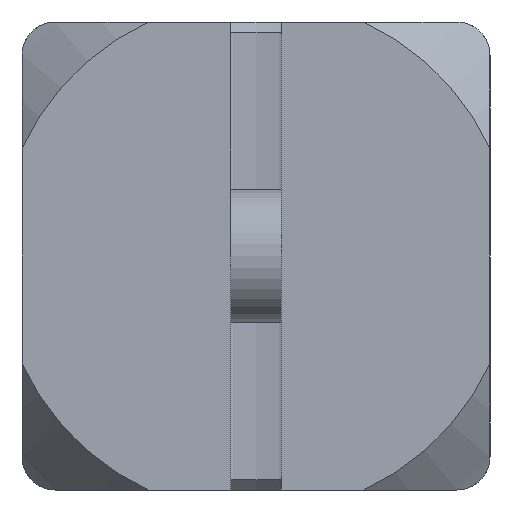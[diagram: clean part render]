
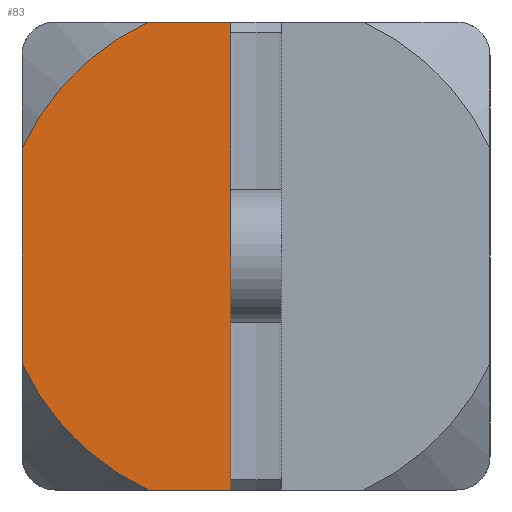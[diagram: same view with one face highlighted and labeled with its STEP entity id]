
A CAD part, left-side view. The second image highlights one B-rep face of the part: STEP entity #83.
In plain terms, the highlighted planar face has unit normal (-1, 0, 0).
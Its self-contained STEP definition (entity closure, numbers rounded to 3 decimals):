
#83 = ADVANCED_FACE( '', ( #161 ), #162, .F. );
#161 = FACE_OUTER_BOUND( '', #321, .T. );
#162 = PLANE( '', #322 );
#321 = EDGE_LOOP( '', ( #533, #534, #535, #536, #537, #538 ) );
#322 = AXIS2_PLACEMENT_3D( '', #539, #540, #541 );
#533 = ORIENTED_EDGE( '', *, *, #967, .F. );
#534 = ORIENTED_EDGE( '', *, *, #988, .F. );
#535 = ORIENTED_EDGE( '', *, *, #989, .F. );
#536 = ORIENTED_EDGE( '', *, *, #990, .T. );
#537 = ORIENTED_EDGE( '', *, *, #991, .F. );
#538 = ORIENTED_EDGE( '', *, *, #992, .T. );
#539 = CARTESIAN_POINT( '', ( -13.5, 7., 7. ) );
#540 = DIRECTION( '', ( 1., 0., 0. ) );
#541 = DIRECTION( '', ( 0., 0., -1. ) );
#967 = EDGE_CURVE( '', #1127, #1119, #1129, .T. );
#988 = EDGE_CURVE( '', #1167, #1127, #1168, .T. );
#989 = EDGE_CURVE( '', #1169, #1167, #1170, .T. );
#990 = EDGE_CURVE( '', #1169, #1171, #1172, .T. );
#991 = EDGE_CURVE( '', #1173, #1171, #1174, .T. );
#992 = EDGE_CURVE( '', #1173, #1119, #1175, .T. );
#1119 = VERTEX_POINT( '', #1383 );
#1127 = VERTEX_POINT( '', #1399 );
#1129 = LINE( '', #1402, #1403 );
#1167 = VERTEX_POINT( '', #1511 );
#1168 = LINE( '', #1512, #1513 );
#1169 = VERTEX_POINT( '', #1514 );
#1170 = CIRCLE( '', #1515, 7.7 );
#1171 = VERTEX_POINT( '', #1516 );
#1172 = LINE( '', #1517, #1518 );
#1173 = VERTEX_POINT( '', #1519 );
#1174 = CIRCLE( '', #1520, 7.7 );
#1175 = LINE( '', #1521, #1522 );
#1383 = CARTESIAN_POINT( '', ( -13.5, 0.75, -7. ) );
#1399 = CARTESIAN_POINT( '', ( -13.5, 0.75, 7. ) );
#1402 = CARTESIAN_POINT( '', ( -13.5, 0.75, 7. ) );
#1403 = VECTOR( '', #1861, 1000. );
#1511 = CARTESIAN_POINT( '', ( -13.5, 3.208, 7. ) );
#1512 = CARTESIAN_POINT( '', ( -13.5, 7., 7. ) );
#1513 = VECTOR( '', #1877, 1000. );
#1514 = CARTESIAN_POINT( '', ( -13.5, 7., 3.208 ) );
#1515 = AXIS2_PLACEMENT_3D( '', #1878, #1879, #1880 );
#1516 = CARTESIAN_POINT( '', ( -13.5, 7., -3.208 ) );
#1517 = CARTESIAN_POINT( '', ( -13.5, 7., 7. ) );
#1518 = VECTOR( '', #1881, 1000. );
#1519 = CARTESIAN_POINT( '', ( -13.5, 3.208, -7. ) );
#1520 = AXIS2_PLACEMENT_3D( '', #1882, #1883, #1884 );
#1521 = CARTESIAN_POINT( '', ( -13.5, 7., -7. ) );
#1522 = VECTOR( '', #1885, 1000. );
#1861 = DIRECTION( '', ( 0., 0., -1. ) );
#1877 = DIRECTION( '', ( 0., -1., 0. ) );
#1878 = CARTESIAN_POINT( '', ( -13.5, 0., 0. ) );
#1879 = DIRECTION( '', ( 1., 0., 0. ) );
#1880 = DIRECTION( '', ( 0., 0., -1. ) );
#1881 = DIRECTION( '', ( 0., 0., -1. ) );
#1882 = CARTESIAN_POINT( '', ( -13.5, 0., 0. ) );
#1883 = DIRECTION( '', ( 1., 0., 0. ) );
#1884 = DIRECTION( '', ( 0., 0., -1. ) );
#1885 = DIRECTION( '', ( 0., -1., 0. ) );
